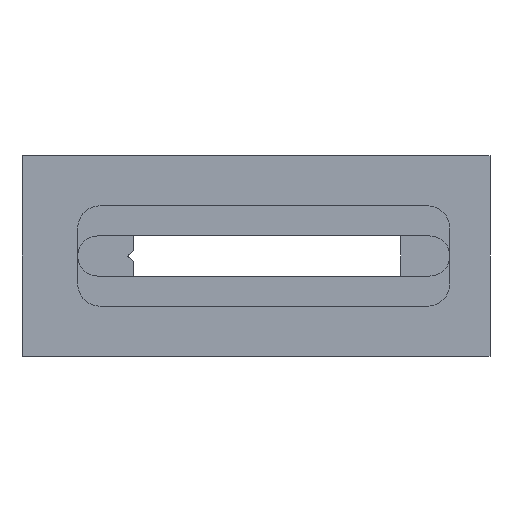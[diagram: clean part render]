
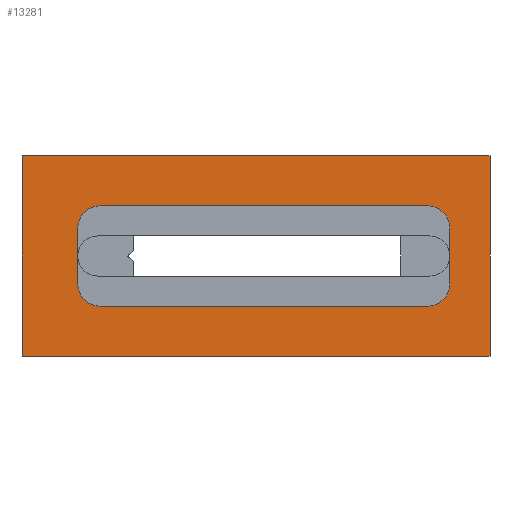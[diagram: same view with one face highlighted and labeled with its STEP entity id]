
A CAD part, front view. The second image highlights one B-rep face of the part: STEP entity #13281.
In plain terms, the highlighted planar face has unit normal (0, -1, 0).
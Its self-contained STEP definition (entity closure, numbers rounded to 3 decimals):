
#5 = AXIS2_PLACEMENT_3D ( 'NONE', #12645, #2636, #14293 ) ;
#33 = DIRECTION ( 'NONE',  ( 0., 0., -1. ) ) ;
#38 = CARTESIAN_POINT ( 'NONE',  ( -28., 0., -22.5 ) ) ;
#370 = EDGE_CURVE ( 'NONE', #371, #16805, #17499, .T. ) ;
#371 = VERTEX_POINT ( 'NONE', #11674 ) ;
#536 = VECTOR ( 'NONE', #16488, 1000. ) ;
#788 = CARTESIAN_POINT ( 'NONE',  ( -185., 0., -12.5 ) ) ;
#1185 = EDGE_CURVE ( 'NONE', #13906, #14466, #13309, .T. ) ;
#1220 = CARTESIAN_POINT ( 'NONE',  ( -28., 0., 22.5 ) ) ;
#1384 = DIRECTION ( 'NONE',  ( 1., 0., 0. ) ) ;
#1802 = AXIS2_PLACEMENT_3D ( 'NONE', #2184, #13836, #3853 ) ;
#1879 = ORIENTED_EDGE ( 'NONE', *, *, #12028, .F. ) ;
#1948 = CARTESIAN_POINT ( 'NONE',  ( -185., 0., -12.5 ) ) ;
#2184 = CARTESIAN_POINT ( 'NONE',  ( -175., 0., 12.5 ) ) ;
#2217 = VERTEX_POINT ( 'NONE', #1220 ) ;
#2407 = VERTEX_POINT ( 'NONE', #1948 ) ;
#2615 = DIRECTION ( 'NONE',  ( 0., 0., -1. ) ) ;
#2636 = DIRECTION ( 'NONE',  ( 0., -1., 0. ) ) ;
#2868 = AXIS2_PLACEMENT_3D ( 'NONE', #19817, #9885, #21506 ) ;
#3853 = DIRECTION ( 'NONE',  ( 0., 0., -1. ) ) ;
#4064 = ORIENTED_EDGE ( 'NONE', *, *, #1185, .F. ) ;
#4474 = EDGE_CURVE ( 'NONE', #10585, #4735, #12743, .T. ) ;
#4597 = CARTESIAN_POINT ( 'NONE',  ( -175., 0., 22.5 ) ) ;
#4735 = VERTEX_POINT ( 'NONE', #15445 ) ;
#4737 = VECTOR ( 'NONE', #19219, 1000. ) ;
#4811 = ORIENTED_EDGE ( 'NONE', *, *, #16159, .F. ) ;
#5093 = EDGE_LOOP ( 'NONE', ( #20113, #12364, #4064, #4811, #15697, #18074, #20664, #12678 ) ) ;
#5516 = CIRCLE ( 'NONE', #5, 10. ) ;
#5680 = EDGE_CURVE ( 'NONE', #14466, #371, #21494, .T. ) ;
#6022 = CIRCLE ( 'NONE', #1802, 10. ) ;
#6353 = AXIS2_PLACEMENT_3D ( 'NONE', #19974, #10027, #33 ) ;
#7247 = DIRECTION ( 'NONE',  ( 1., 0., 0. ) ) ;
#7595 = ORIENTED_EDGE ( 'NONE', *, *, #4474, .T. ) ;
#7734 = CARTESIAN_POINT ( 'NONE',  ( 0., 0., 45. ) ) ;
#8354 = PLANE ( 'NONE',  #10300 ) ;
#8657 = LINE ( 'NONE', #10460, #17445 ) ;
#8871 = VECTOR ( 'NONE', #1384, 1000. ) ;
#8919 = VECTOR ( 'NONE', #9509, 1000. ) ;
#9032 = EDGE_LOOP ( 'NONE', ( #7595, #1879, #10130, #19456 ) ) ;
#9212 = CARTESIAN_POINT ( 'NONE',  ( -210., 0., 45. ) ) ;
#9393 = DIRECTION ( 'NONE',  ( 0., 0., -1. ) ) ;
#9509 = DIRECTION ( 'NONE',  ( 1., 0., 0. ) ) ;
#9729 = CARTESIAN_POINT ( 'NONE',  ( 0., 0., -45. ) ) ;
#9885 = DIRECTION ( 'NONE',  ( 0., -1., 0. ) ) ;
#9969 = DIRECTION ( 'NONE',  ( -1., 0., 0. ) ) ;
#10027 = DIRECTION ( 'NONE',  ( 0., -1., 0. ) ) ;
#10130 = ORIENTED_EDGE ( 'NONE', *, *, #10597, .F. ) ;
#10300 = AXIS2_PLACEMENT_3D ( 'NONE', #16582, #19918, #9969 ) ;
#10460 = CARTESIAN_POINT ( 'NONE',  ( 0., 0., 45. ) ) ;
#10585 = VERTEX_POINT ( 'NONE', #12041 ) ;
#10597 = EDGE_CURVE ( 'NONE', #18125, #14214, #8657, .T. ) ;
#10868 = CARTESIAN_POINT ( 'NONE',  ( -185., 0., 12.5 ) ) ;
#11127 = LINE ( 'NONE', #7734, #19437 ) ;
#11674 = CARTESIAN_POINT ( 'NONE',  ( -18., 0., -12.5 ) ) ;
#12028 = EDGE_CURVE ( 'NONE', #14214, #4735, #11127, .T. ) ;
#12041 = CARTESIAN_POINT ( 'NONE',  ( -210., 0., -45. ) ) ;
#12182 = EDGE_CURVE ( 'NONE', #16805, #2217, #15764, .T. ) ;
#12364 = ORIENTED_EDGE ( 'NONE', *, *, #5680, .F. ) ;
#12645 = CARTESIAN_POINT ( 'NONE',  ( -175., 0., -12.5 ) ) ;
#12678 = ORIENTED_EDGE ( 'NONE', *, *, #12182, .F. ) ;
#12743 = LINE ( 'NONE', #9729, #8871 ) ;
#13177 = CARTESIAN_POINT ( 'NONE',  ( -175., 0., 22.5 ) ) ;
#13281 = ADVANCED_FACE ( 'NONE', ( #18857, #15479 ), #8354, .F. ) ;
#13309 = LINE ( 'NONE', #13974, #8919 ) ;
#13836 = DIRECTION ( 'NONE',  ( 0., -1., 0. ) ) ;
#13843 = LINE ( 'NONE', #13177, #536 ) ;
#13906 = VERTEX_POINT ( 'NONE', #16223 ) ;
#13974 = CARTESIAN_POINT ( 'NONE',  ( -175., 0., -22.5 ) ) ;
#14119 = CARTESIAN_POINT ( 'NONE',  ( -18., 0., 12.5 ) ) ;
#14214 = VERTEX_POINT ( 'NONE', #15480 ) ;
#14293 = DIRECTION ( 'NONE',  ( 0., 0., -1. ) ) ;
#14466 = VERTEX_POINT ( 'NONE', #38 ) ;
#15356 = VERTEX_POINT ( 'NONE', #4597 ) ;
#15445 = CARTESIAN_POINT ( 'NONE',  ( 0., 0., -45. ) ) ;
#15479 = FACE_OUTER_BOUND ( 'NONE', #9032, .T. ) ;
#15480 = CARTESIAN_POINT ( 'NONE',  ( 0., 0., 45. ) ) ;
#15689 = VERTEX_POINT ( 'NONE', #10868 ) ;
#15697 = ORIENTED_EDGE ( 'NONE', *, *, #18697, .F. ) ;
#15764 = CIRCLE ( 'NONE', #6353, 10. ) ;
#16159 = EDGE_CURVE ( 'NONE', #2407, #13906, #5516, .T. ) ;
#16223 = CARTESIAN_POINT ( 'NONE',  ( -175., 0., -22.5 ) ) ;
#16488 = DIRECTION ( 'NONE',  ( -1., 0., 0. ) ) ;
#16582 = CARTESIAN_POINT ( 'NONE',  ( 0., 0., 45. ) ) ;
#16616 = EDGE_CURVE ( 'NONE', #15356, #15689, #6022, .T. ) ;
#16744 = EDGE_CURVE ( 'NONE', #18125, #10585, #19031, .T. ) ;
#16805 = VERTEX_POINT ( 'NONE', #14119 ) ;
#16842 = VECTOR ( 'NONE', #17433, 1000. ) ;
#17433 = DIRECTION ( 'NONE',  ( 0., 0., -1. ) ) ;
#17445 = VECTOR ( 'NONE', #7247, 1000. ) ;
#17499 = LINE ( 'NONE', #19356, #4737 ) ;
#18074 = ORIENTED_EDGE ( 'NONE', *, *, #16616, .F. ) ;
#18125 = VERTEX_POINT ( 'NONE', #19044 ) ;
#18508 = VECTOR ( 'NONE', #2615, 1000. ) ;
#18697 = EDGE_CURVE ( 'NONE', #15689, #2407, #21259, .T. ) ;
#18857 = FACE_BOUND ( 'NONE', #5093, .T. ) ;
#19031 = LINE ( 'NONE', #9212, #18508 ) ;
#19044 = CARTESIAN_POINT ( 'NONE',  ( -210., 0., 45. ) ) ;
#19219 = DIRECTION ( 'NONE',  ( 0., 0., 1. ) ) ;
#19356 = CARTESIAN_POINT ( 'NONE',  ( -18., 0., -12.5 ) ) ;
#19437 = VECTOR ( 'NONE', #9393, 1000. ) ;
#19456 = ORIENTED_EDGE ( 'NONE', *, *, #16744, .T. ) ;
#19677 = EDGE_CURVE ( 'NONE', #2217, #15356, #13843, .T. ) ;
#19817 = CARTESIAN_POINT ( 'NONE',  ( -28., 0., -12.5 ) ) ;
#19918 = DIRECTION ( 'NONE',  ( 0., 1., 0. ) ) ;
#19974 = CARTESIAN_POINT ( 'NONE',  ( -28., 0., 12.5 ) ) ;
#20113 = ORIENTED_EDGE ( 'NONE', *, *, #370, .F. ) ;
#20664 = ORIENTED_EDGE ( 'NONE', *, *, #19677, .F. ) ;
#21259 = LINE ( 'NONE', #788, #16842 ) ;
#21494 = CIRCLE ( 'NONE', #2868, 10. ) ;
#21506 = DIRECTION ( 'NONE',  ( 0., 0., -1. ) ) ;
